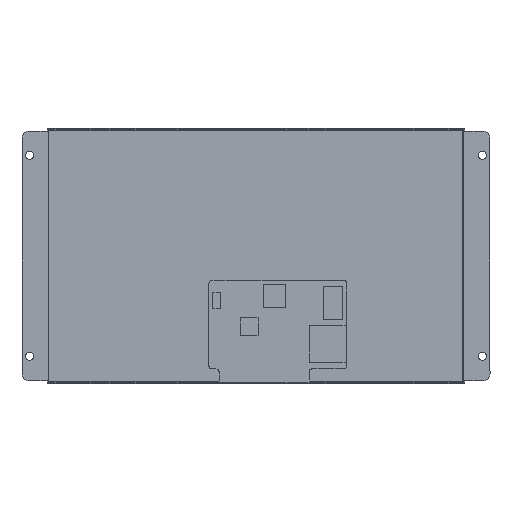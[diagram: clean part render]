
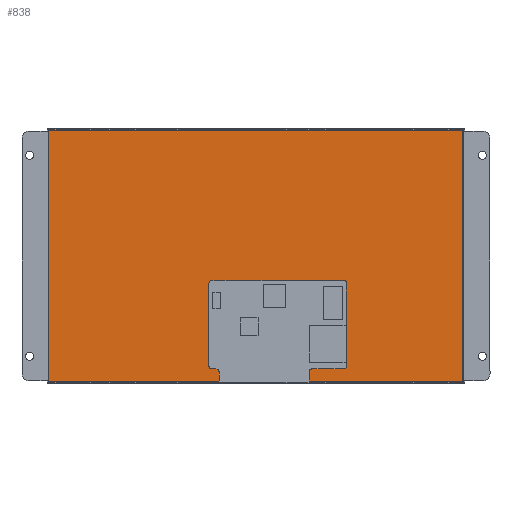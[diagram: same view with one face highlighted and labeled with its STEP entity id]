
A CAD part, top view. The second image highlights one B-rep face of the part: STEP entity #838.
In plain terms, the highlighted planar face has unit normal (0, 0, 1).
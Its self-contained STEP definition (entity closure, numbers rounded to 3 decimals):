
#838=ADVANCED_FACE('',(#1159),#982,.F.);
#982=PLANE('',#4208);
#1159=FACE_OUTER_BOUND('',#1366,.T.);
#1366=EDGE_LOOP('',(#2271,#2272,#2273,#2274));
#2271=ORIENTED_EDGE('',*,*,#3170,.T.);
#2272=ORIENTED_EDGE('',*,*,#3174,.T.);
#2273=ORIENTED_EDGE('',*,*,#3177,.T.);
#2274=ORIENTED_EDGE('',*,*,#3180,.T.);
#2693=VERTEX_POINT('',#6453);
#2694=VERTEX_POINT('',#6454);
#2697=VERTEX_POINT('',#6462);
#2699=VERTEX_POINT('',#6468);
#3170=EDGE_CURVE('',#2693,#2694,#3529,.T.);
#3174=EDGE_CURVE('',#2694,#2697,#3533,.T.);
#3177=EDGE_CURVE('',#2697,#2699,#3536,.T.);
#3180=EDGE_CURVE('',#2699,#2693,#3539,.T.);
#3529=LINE('',#6452,#3890);
#3533=LINE('',#6461,#3894);
#3536=LINE('',#6467,#3897);
#3539=LINE('',#6473,#3900);
#3890=VECTOR('',#4994,1.);
#3894=VECTOR('',#5000,1.);
#3897=VECTOR('',#5005,1.);
#3900=VECTOR('',#5010,1.);
#4208=AXIS2_PLACEMENT_3D('',#6477,#5016,#5017);
#4994=DIRECTION('',(-1.,0.,0.));
#5000=DIRECTION('',(0.,-1.,0.));
#5005=DIRECTION('',(1.,0.,0.));
#5010=DIRECTION('',(0.,1.,0.));
#5016=DIRECTION('',(0.,0.,-1.));
#5017=DIRECTION('',(1.,0.,0.));
#6452=CARTESIAN_POINT('',(480.268,58.563,-2.2));
#6453=CARTESIAN_POINT('',(562.698,58.563,-2.2));
#6454=CARTESIAN_POINT('',(397.838,58.563,-2.2));
#6461=CARTESIAN_POINT('',(397.838,8.583,-2.2));
#6462=CARTESIAN_POINT('',(397.838,-41.397,-2.2));
#6467=CARTESIAN_POINT('',(480.268,-41.397,-2.2));
#6468=CARTESIAN_POINT('',(562.698,-41.397,-2.2));
#6473=CARTESIAN_POINT('',(562.698,8.583,-2.2));
#6477=CARTESIAN_POINT('',(480.268,58.563,-2.2));
